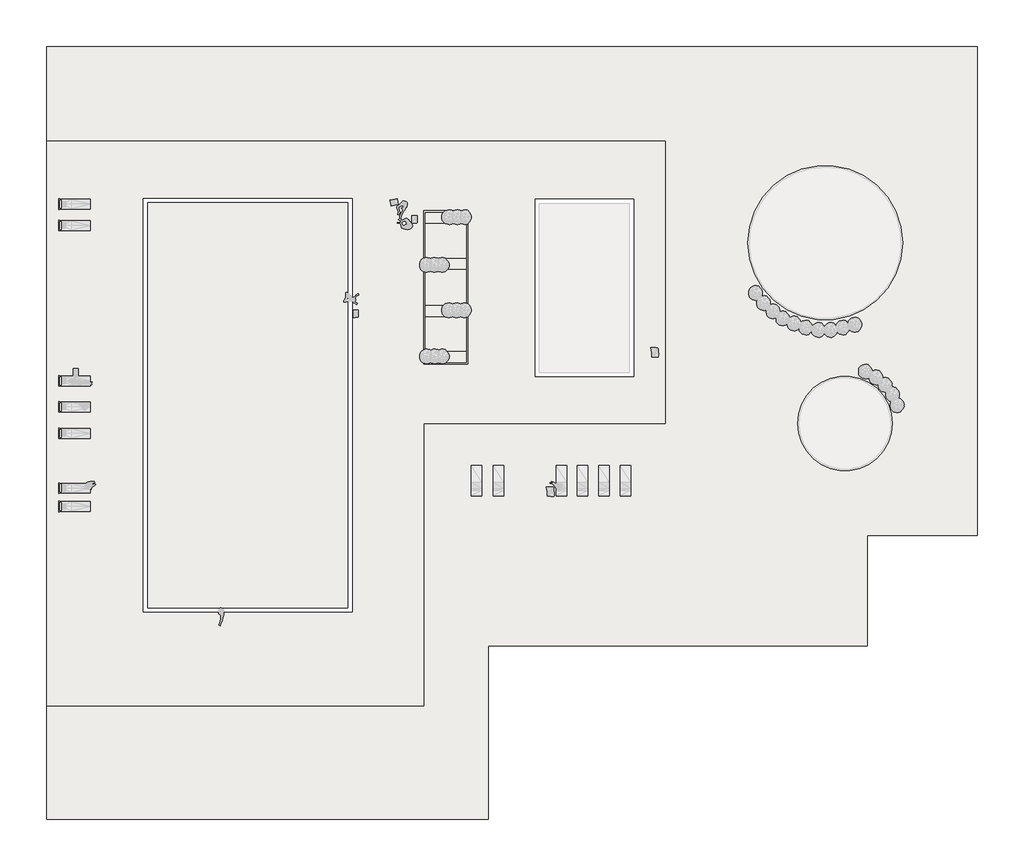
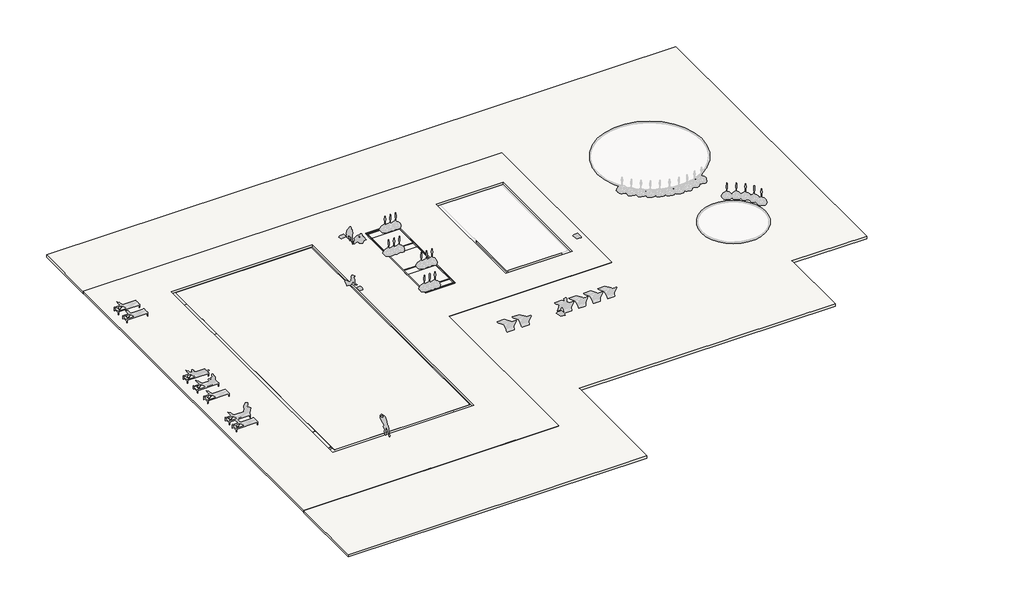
# One storey, part 1 of 2: 16 walls, 13 slabs.
"""IFC4 building model written with IfcOpenShell, lengths in millimetres."""

from ifc_helpers import new_model, si_unit, point, frame, frame_2d, origin, place, context, project, spatial, polyline, circle_curve, trimmed, segment, composite_curve, outline, extrude, faceted_brep, element, save
from ifc_brep_helpers import plane_surface, revolved_surface, advanced_brep

model = new_model("IFC4")

# Units and contexts
model_context = context("Model", 3, world=origin())
ifc_project = project(units=[si_unit("LENGTHUNIT", "METRE", prefix="MILLI")], contexts=[model_context])

# Site, building, storey
site = spatial("IfcSite", under=ifc_project)
building = spatial("IfcBuilding", under=site)
storey = spatial("IfcBuildingStorey", under=building, Name="1_NPlaya", Elevation=0.0)

# Slabs
placement = place(None, origin())
element("IfcSlab", 1, ObjectType="Pieza 244 G1_Patrón Recto_Aqua_Blanco_Anti-Slip", at=placement, inside=storey, context=model_context, shape_type="SweptSolid", body=[
    extrude(outline(polyline([(3250.0411326, 24806.3660731), (3250.0411326, 20036.3926616), (2314.0677212, 20036.3926616), (2314.0677212, 22595.3926616), (2689.0677212, 22595.3926616), (2689.0677212, 22845.3926616), (1689.0677212, 22845.3926616), (1689.0677212, 22595.3926616), (2064.0677212, 22595.3926616), (2064.0677212, 20036.3926616), (-185.9322788, 20036.3926616), (-185.9322788, 22595.3926616), (189.0677212, 22595.3926616), (189.0677212, 22845.3926616), (-319.9322788, 22845.3926616), (-319.9322788, 24806.3660731), (3250.0411326, 24806.3660731)])), frame((0.0, 0.0, -1259.0), z_axis=(0.0, 0.0, 1.0), x_axis=(1.0, 0.0, 0.0)), (0.0, 0.0, 1.0), 9.0),
])
element("IfcSlab", 2, ObjectType="Pieza 244 G1_Patrón Recto_Aqua_Blanco_Anti-Slip", at=placement, inside=storey, context=model_context, shape_type="Brep", body=[
    faceted_brep([(5650.0411326, 20004.3134327, -1260.0462758), (5650.0411326, 4636.3926616, -1759.0047424), (4814.0677212, 4636.3926616, -1759.0047424), (4814.0677212, 17786.3926616, -1332.0566904), (5189.0677212, 17786.3926616, -1332.0566904), (5189.0677212, 18036.3926616, -1323.9398073), (4189.0677212, 18036.3926616, -1323.9398073), (4189.0677212, 17786.3926616, -1332.0566904), (4564.0677212, 17786.3926616, -1332.0566904), (4564.0677212, 4636.3926616, -1759.0047424), (2314.0677212, 4636.3926616, -1759.0047424), (2314.0677212, 20036.3926616, -1259.0047424), (3250.0677212, 20036.3926616, -1259.0047424), (3250.0677212, 20004.3134327, -1260.0462758), (5650.0411326, 20004.3134327, -1251.0415334), (3250.0677212, 20004.3134327, -1251.0415334), (3250.0677212, 20036.3926616, -1250.0), (2314.0677212, 20036.3926616, -1250.0), (2314.0677212, 4636.3926616, -1750.0), (4564.0677212, 4636.3926616, -1750.0), (4564.0677212, 17786.3926616, -1323.0519481), (4189.0677212, 17786.3926616, -1323.0519481), (4189.0677212, 18036.3926616, -1314.9350649), (5189.0677212, 18036.3926616, -1314.9350649), (5189.0677212, 17786.3926616, -1323.0519481), (4814.0677212, 17786.3926616, -1323.0519481), (4814.0677212, 4636.3926616, -1750.0), (5650.0411326, 4636.3926616, -1750.0)], [[[0, 1, 2, 3, 4, 5, 6, 7, 8, 9, 10, 11, 12, 13]], [[14, 15, 16, 17, 18, 19, 20, 21, 22, 23, 24, 25, 26, 27]], [[1, 0, 14, 27]], [[2, 1, 27, 26]], [[0, 13, 15, 14]], [[3, 2, 26, 25]], [[4, 3, 25, 24]], [[5, 4, 24, 23]], [[6, 5, 23, 22]], [[7, 6, 22, 21]], [[8, 7, 21, 20]], [[9, 8, 20, 19]], [[10, 9, 19, 18]], [[11, 10, 18, 17]], [[12, 11, 17, 16]], [[13, 12, 16, 15]]]),
    faceted_brep([(-6289.9056903, 20036.3926616, -1259.0047424), (-5444.9322788, 20036.3926616, -1259.0047424), (-5444.9322788, 4636.3926616, -1759.0047424), (-6289.9056903, 4636.3926616, -1759.0047424), (-6289.9056903, 20036.3926616, -1250.0), (-6289.9056903, 4636.3926616, -1750.0), (-5444.9322788, 4636.3926616, -1750.0), (-5444.9322788, 20036.3926616, -1250.0)], [[[0, 1, 2, 3]], [[4, 5, 6, 7]], [[0, 3, 5, 4]], [[1, 0, 4, 7]], [[2, 1, 7, 6]], [[3, 2, 6, 5]]]),
    faceted_brep([(-5194.9322788, 20036.3926616, -1259.0047424), (-2944.9322788, 20036.3926616, -1259.0047424), (-2944.9322788, 4636.3926616, -1759.0047424), (-5194.9322788, 4636.3926616, -1759.0047424), (-5194.9322788, 20036.3926616, -1250.0), (-5194.9322788, 4636.3926616, -1750.0), (-2944.9322788, 4636.3926616, -1750.0), (-2944.9322788, 20036.3926616, -1250.0)], [[[0, 1, 2, 3]], [[4, 5, 6, 7]], [[1, 0, 4, 7]], [[2, 1, 7, 6]], [[3, 2, 6, 5]], [[0, 3, 5, 4]]]),
    faceted_brep([(-2694.9322788, 20036.3926616, -1259.0047424), (-444.9322788, 20036.3926616, -1259.0047424), (-444.9322788, 4636.3926616, -1759.0047424), (-2694.9322788, 4636.3926616, -1759.0047424), (-2694.9322788, 20036.3926616, -1250.0), (-2694.9322788, 4636.3926616, -1750.0), (-444.9322788, 4636.3926616, -1750.0), (-444.9322788, 20036.3926616, -1250.0)], [[[0, 1, 2, 3]], [[4, 5, 6, 7]], [[1, 0, 4, 7]], [[2, 1, 7, 6]], [[3, 2, 6, 5]], [[0, 3, 5, 4]]]),
    faceted_brep([(-185.9322788, 20036.3926616, -1259.0047424), (2064.0677212, 20036.3926616, -1259.0047424), (2064.0677212, 4636.3926616, -1759.0047424), (-185.9322788, 4636.3926616, -1759.0047424), (-185.9322788, 20036.3926616, -1250.0), (-185.9322788, 4636.3926616, -1750.0), (2064.0677212, 4636.3926616, -1750.0), (2064.0677212, 20036.3926616, -1250.0)], [[[0, 1, 2, 3]], [[4, 5, 6, 7]], [[1, 0, 4, 7]], [[2, 1, 7, 6]], [[3, 2, 6, 5]], [[0, 3, 5, 4]]]),
])
element("IfcSlab", 3, ObjectType="Pieza 244 G1_Patrón Recto_Aqua_Blanco_Anti-Slip", at=placement, inside=storey, context=model_context, shape_type="SweptSolid", body=[
    extrude(outline(polyline([(-5444.9322788, 4636.3926616), (-5444.9322788, 2095.3926616), (-5819.9322788, 2095.3926616), (-5819.9322788, 1845.3926616), (-4819.9322788, 1845.3926616), (-4819.9322788, 2095.3926616), (-5194.9322788, 2095.3926616), (-5194.9322788, 4636.3926616), (-2944.9322788, 4636.3926616), (-2944.9322788, 2095.3926616), (-3319.9322788, 2095.3926616), (-3319.9322788, 1845.3926616), (-2319.9322788, 1845.3926616), (-2319.9322788, 2095.3926616), (-2694.9322788, 2095.3926616), (-2694.9322788, 4636.3926616), (-444.9322788, 4636.3926616), (-444.9322788, 2095.3926616), (-810.9322788, 2095.3926616), (-810.9322788, 1845.3926616), (189.0677212, 1845.3926616), (189.0677212, 2095.3926616), (-185.9322788, 2095.3926616), (-185.9322788, 4636.3926616), (2064.0677212, 4636.3926616), (2064.0677212, 2095.3926616), (1689.0677212, 2095.3926616), (1689.0677212, 1845.3926616), (2689.0677212, 1845.3926616), (2689.0677212, 2095.3926616), (2314.0677212, 2095.3926616), (2314.0677212, 4636.3926616), (4564.0677212, 4636.3926616), (4564.0677212, 2095.3926616), (4189.0677212, 2095.3926616), (4189.0677212, 1845.3926616), (5189.0677212, 1845.3926616), (5189.0677212, 2095.3926616), (4814.0677212, 2095.3926616), (4814.0677212, 4636.3926616), (5650.0411326, 4636.3926616), (5650.0411326, -124.5807498), (-6289.9056903, -124.5807498), (-6289.9056903, 4636.3926616), (-5444.9322788, 4636.3926616)])), frame((0.0, 0.0, -1759.0), z_axis=(0.0, 0.0, 1.0), x_axis=(1.0, 0.0, 0.0)), (0.0, 0.0, 1.0), 9.0),
])
element("IfcSlab", 4, ObjectType="Pieza 244 G1_Patrón Recto_Aqua_Blanco_Anti-Slip", at=placement, inside=storey, context=model_context, shape_type="SweptSolid", body=[
    extrude(outline(composite_curve([segment(polyline([(3849.0677212, 24836.3926616), (3849.0677212, 20676.3926616)]), True, "CONTINUOUS"), segment(trimmed(circle_curve(frame_2d((3889.0677212, 20676.3926616)), 40.0), [point((3849.0677212, 20676.3926616))], [point((3889.0677212, 20636.3926616))], True, "CARTESIAN"), True, "CONTINUOUS"), segment(polyline([(3889.0677212, 20636.3926616), (5680.0677212, 20636.3926616), (5680.0677212, 20076.3926616), (3320.0677212, 20076.3926616), (3320.0677212, 24836.3926616), (3849.0677212, 24836.3926616)]), True, "CONTINUOUS")], self_intersect=False)), frame((0.0, 0.0, -959.0), z_axis=(0.0, 0.0, 1.0), x_axis=(1.0, 0.0, 0.0)), (0.0, 0.0, 1.0), 9.0),
])
element("IfcSlab", 5, ObjectType="Pieza 244 G1_Patrón Recto_Aqua_Blanco_Anti-Slip", at=placement, inside=storey, context=model_context, shape_type="SweptSolid", body=[
    extrude(outline(composite_curve([segment(polyline([(4450.0411326, 24836.3926616), (4450.0411326, 21246.3660731)]), True, "CONTINUOUS"), segment(trimmed(circle_curve(frame_2d((4490.0411326, 21246.3660731)), 40.0), [point((4450.0411326, 21246.3660731))], [point((4490.0411326, 21206.3660731))], True, "CARTESIAN"), True, "CONTINUOUS"), segment(polyline([(4490.0411326, 21206.3660731), (5680.0677212, 21206.3660731), (5680.0677212, 20676.3926616), (4430.0677212, 20676.3926616), (3920.0677212, 20676.3926616), (3920.0677212, 24836.3926616), (4450.0411326, 24836.3926616)]), True, "CONTINUOUS")], self_intersect=False)), frame((0.0, 0.0, -709.0), z_axis=(0.0, 0.0, 1.0), x_axis=(1.0, 0.0, 0.0)), (0.0, 0.0, 1.0), 9.0),
])
element("IfcSlab", 6, ObjectType="Pieza 244 G1_Patrón Recto_Aqua_Blanco_Anti-Slip", at=placement, inside=storey, context=model_context, shape_type="SweptSolid", body=[
    extrude(outline(polyline([(5049.0677212, 24836.3926616), (5049.0677212, 21806.3660731), (5680.0677212, 21806.3660731), (5680.0677212, 21276.3926616), (5021.146334, 21276.3926616), (4520.0677212, 21276.3926616), (4520.0677212, 24836.3926616), (5049.0677212, 24836.3926616)])), frame((0.0, 0.0, -459.0), z_axis=(0.0, 0.0, 1.0), x_axis=(1.0, 0.0, 0.0)), (0.0, 0.0, 1.0), 9.0),
])
element("IfcSlab", 7, ObjectType="Pieza 244 G1_Patrón Recto_Aqua_Blanco_Anti-Slip", at=placement, inside=storey, context=model_context, shape_type="SweptSolid", body=[
    extrude(outline(polyline([(5680.0677212, 24836.3926616), (5680.0677212, 21876.3926616), (5120.0677212, 21876.3926616), (5120.0677212, 24836.3926616), (5680.0677212, 24836.3926616)])), frame((0.0, 0.0, -209.0), z_axis=(0.0, 0.0, 1.0), x_axis=(1.0, 0.0, 0.0)), (0.0, 0.0, 1.0), 9.0),
])
element("IfcSlab", 8, ObjectType="Pieza 244 G1_Patrón Recto_Aqua_Blanco_Anti-Slip", at=placement, inside=storey, context=model_context, shape_type="SweptSolid", body=[
    extrude(outline(polyline([(-6289.9056903, 24806.3660731), (-310.9322788, 24806.3660731), (-310.9322788, 22845.3926616), (-819.9322788, 22845.3926616), (-819.9322788, 22595.3926616), (-444.9322788, 22595.3926616), (-444.9322788, 20036.3926616), (-2694.9322788, 20036.3926616), (-2694.9322788, 22595.3926616), (-2319.9322788, 22595.3926616), (-2319.9322788, 22845.3926616), (-3319.9322788, 22845.3926616), (-3319.9322788, 22595.3926616), (-2944.9322788, 22595.3926616), (-2944.9322788, 20036.3926616), (-5194.9322788, 20036.3926616), (-5194.9322788, 22595.3926616), (-4819.9322788, 22595.3926616), (-4819.9322788, 22845.3926616), (-5819.9322788, 22845.3926616), (-5819.9322788, 22595.3926616), (-5444.9322788, 22595.3926616), (-5444.9322788, 20036.3926616), (-6289.9056903, 20036.3926616), (-6289.9056903, 24806.3660731)])), frame((0.0, 0.0, -1259.0), z_axis=(0.0, 0.0, 1.0), x_axis=(1.0, 0.0, 0.0)), (0.0, 0.0, 1.0), 9.0),
])
element("IfcSlab", 9, ObjectType="Pieza 244 G1_Patrón Recto_Aqua_Plomo_Anti-Slip", at=placement, inside=storey, context=model_context, shape_type="SweptSolid", body=[
    extrude(outline(polyline([(-5194.9322788, 20036.3926616), (-5444.9322788, 20036.3926616), (-5444.9322788, 22595.3926616), (-5194.9322788, 22595.3926616), (-5194.9322788, 20036.3926616)])), frame((0.0, 0.0, -1259.0), z_axis=(0.0, 0.0, 1.0), x_axis=(1.0, 0.0, 0.0)), (0.0, 0.0, 1.0), 9.0),
    extrude(outline(polyline([(-2694.9322788, 20036.3926616), (-2944.9322788, 20036.3926616), (-2944.9322788, 22595.3926616), (-2694.9322788, 22595.3926616), (-2694.9322788, 20036.3926616)])), frame((0.0, 0.0, -1259.0), z_axis=(0.0, 0.0, 1.0), x_axis=(1.0, 0.0, 0.0)), (0.0, 0.0, 1.0), 9.0),
    extrude(outline(polyline([(-185.9322788, 20036.3926616), (-445.9322788, 20036.3926616), (-445.9322788, 22595.3926616), (-185.9322788, 22595.3926616), (-185.9322788, 20036.3926616)])), frame((0.0, 0.0, -1259.0), z_axis=(0.0, 0.0, 1.0), x_axis=(1.0, 0.0, 0.0)), (0.0, 0.0, 1.0), 9.0),
    extrude(outline(polyline([(2314.0677212, 20036.3926616), (2064.0677212, 20036.3926616), (2064.0677212, 22595.3926616), (2314.0677212, 22595.3926616), (2314.0677212, 20036.3926616)])), frame((0.0, 0.0, -1259.0), z_axis=(0.0, 0.0, 1.0), x_axis=(1.0, 0.0, 0.0)), (0.0, 0.0, 1.0), 9.0),
])
element("IfcSlab", 10, ObjectType="GENÉRICO_LOSA NO CUENTA", at=placement, inside=storey, context=model_context, shape_type="SweptSolid", body=[
    extrude(outline(polyline([(26125.6635969, 29089.4519776), (26125.6635969, 11189.4519776), (10825.6635969, 11189.4519776), (10825.6635969, -6710.5480224), (-13074.3364031, -6710.5480224), (-13074.3364031, 29089.4519776), (26125.6635969, 29089.4519776)]), holes=[polyline([(6296.5677212, 25452.8926616), (-6937.0185058, 25452.8926616), (-6937.0185058, -771.6935653), (6296.5677212, -771.6935653), (6296.5677212, 25452.8926616)]), polyline([(24140.7063413, 25402.767289), (17887.4088874, 25402.767289), (17887.4088874, 14156.3448351), (24140.7063413, 14156.3448351), (24140.7063413, 25402.767289)]), polyline([(13625.6635969, 15064.4310621), (13625.6635969, 15746.3810621), (10825.6635969, 15746.3810621), (10825.6635969, 15064.4310621), (13625.6635969, 15064.4310621)]), polyline([(13625.6635969, 17979.3310621), (13625.6635969, 18661.2810621), (10825.6635969, 18661.2810621), (10825.6635969, 17979.3310621), (13625.6635969, 17979.3310621)]), polyline([(13625.6635969, 20967.1810621), (13625.6635969, 21649.1310621), (10825.6635969, 21649.1310621), (10825.6635969, 20967.1810621), (13625.6635969, 20967.1810621)]), polyline([(13625.6635969, 23875.0310621), (13625.6635969, 24556.9810621), (10825.6635969, 24556.9810621), (10825.6635969, 23875.0310621), (13625.6635969, 23875.0310621)])]), frame((0.0, 0.0, -200.0), z_axis=(0.0, 0.0, 1.0), x_axis=(1.0, 0.0, 0.0)), (0.0, 0.0, 1.0), 200.0),
])
element("IfcSlab", 11, ObjectType="GENÉRICO_HIERBA", at=placement, inside=storey, context=model_context, shape_type="SweptSolid", body=[
    extrude(outline(polyline([(-13074.3364031, 29089.4519776), (-13074.3364031, 35089.4519776), (45925.6635969, 35089.4519776), (45925.6635969, 4089.4519776), (38925.6635969, 4089.4519776), (38925.6635969, -2910.5480224), (14925.6635969, -2910.5480224), (14925.6635969, -13910.5480224), (-13074.3364031, -13910.5480224), (-13074.3364031, -6710.5480224), (10825.6635969, -6710.5480224), (10825.6635969, 11189.4519776), (26125.6635969, 11189.4519776), (26125.6635969, 29089.4519776), (-13074.3364031, 29089.4519776)]), holes=[composite_curve([segment(trimmed(circle_curve(frame_2d((36279.7445205, 22642.4685528)), 4900.0), [point((31379.7445205, 22642.4685528))], [point((41179.7445205, 22642.4685528))], True, "CARTESIAN"), True, "CONTINUOUS"), segment(trimmed(circle_curve(frame_2d((36279.7445205, 22642.4685528)), 4900.0), [point((41179.7445205, 22642.4685528))], [point((31379.7445205, 22642.4685528))], True, "CARTESIAN"), True, "CONTINUOUS")], self_intersect=False), composite_curve([segment(trimmed(circle_curve(frame_2d((37526.7800734, 11189.4519776)), 3000.0), [point((34526.7800734, 11189.4519776))], [point((40526.7800734, 11189.4519776))], True, "CARTESIAN"), True, "CONTINUOUS"), segment(trimmed(circle_curve(frame_2d((37526.7800734, 11189.4519776)), 3000.0), [point((40526.7800734, 11189.4519776))], [point((34526.7800734, 11189.4519776))], True, "CARTESIAN"), True, "CONTINUOUS")], self_intersect=False)]), frame((0.0, 0.0, -281.0), z_axis=(0.0, 0.0, 1.0), x_axis=(1.0, 0.0, 0.0)), (0.0, 0.0, 1.0), 231.0),
    extrude(outline(polyline([(10925.6635969, 23875.0310621), (10925.6635969, 24556.9810621), (13525.6635969, 24556.9810621), (13525.6635969, 23875.0310621), (10925.6635969, 23875.0310621)])), frame((0.0, 0.0, -281.0), z_axis=(0.0, 0.0, 1.0), x_axis=(1.0, 0.0, 0.0)), (0.0, 0.0, 1.0), 231.0),
    extrude(outline(polyline([(10925.6635969, 20967.1810621), (10925.6635969, 21649.1310621), (13525.6635969, 21649.1310621), (13525.6635969, 20967.1810621), (10925.6635969, 20967.1810621)])), frame((0.0, 0.0, -281.0), z_axis=(0.0, 0.0, 1.0), x_axis=(1.0, 0.0, 0.0)), (0.0, 0.0, 1.0), 231.0),
    extrude(outline(polyline([(10925.6635969, 17979.3310621), (10925.6635969, 18661.2810621), (13525.6635969, 18661.2810621), (13525.6635969, 17979.3310621), (10925.6635969, 17979.3310621)])), frame((0.0, 0.0, -281.0), z_axis=(0.0, 0.0, 1.0), x_axis=(1.0, 0.0, 0.0)), (0.0, 0.0, 1.0), 231.0),
    extrude(outline(polyline([(10925.6635969, 15064.4310621), (10925.6635969, 15746.3810621), (13525.6635969, 15746.3810621), (13525.6635969, 15064.4310621), (10925.6635969, 15064.4310621)])), frame((0.0, 0.0, -281.0), z_axis=(0.0, 0.0, 1.0), x_axis=(1.0, 0.0, 0.0)), (0.0, 0.0, 1.0), 231.0),
])
element("IfcSlab", 12, ObjectType="GENÉRICO_AGUA", at=placement, inside=storey, context=model_context, shape_type="SweptSolid", body=[
    extrude(outline(polyline([(6031.4924614, 25177.1049078), (6031.4924614, -516.0320786), (-6669.644525, -516.0320786), (-6669.644525, 25177.1049078), (6031.4924614, 25177.1049078)])), frame((0.0, 0.0, -16.0), z_axis=(0.0, 0.0, 1.0), x_axis=(1.0, 0.0, 0.0)), (0.0, 0.0, 1.0), 1.0),
])
element("IfcSlab", 13, ObjectType="GENÉRICO_LOSA 20 cm", at=placement, inside=storey, context=model_context, shape_type="SweptSolid", body=[
    extrude(outline(polyline([(13625.6635969, 24670.8506065), (13625.6635969, 14964.4310621), (10825.6635969, 14964.4310621), (10825.6635969, 24670.8506065), (13625.6635969, 24670.8506065)]), holes=[polyline([(13525.6635969, 15064.4310621), (13525.6635969, 24570.8506065), (10925.6635969, 24570.8506065), (10925.6635969, 15064.4310621), (13525.6635969, 15064.4310621)])]), frame((0.0, 0.0, -150.0), z_axis=(0.0, 0.0, 1.0), x_axis=(1.0, 0.0, 0.0)), (0.0, 0.0, 1.0), 200.0),
])

# Walls
element("IfcWall", 14, ObjectType="Pieza 244 G1_Patrón Recto_Aqua_Blanco_Liso", at=placement, inside=storey, context=model_context, shape_type="Brep", body=[
    faceted_brep([(5680.0677212, 20045.3926616, -1250.0), (3320.0677212, 20045.3926616, -1250.0), (3320.0677212, 20045.3926616, -990.0), (5680.0677212, 20045.3926616, -990.0), (5680.0677212, 20045.3926616, -1219.6653817), (5680.0677212, 20036.3926616, -1250.0), (5680.0677212, 20036.3926616, -990.0), (3320.0677212, 20036.3926616, -990.0), (3320.0677212, 20036.3926616, -1250.0)], [[[0, 1, 2, 3, 4]], [[5, 6, 7, 8]], [[1, 0, 5, 8]], [[2, 1, 8, 7]], [[3, 2, 7, 6]], [[0, 4, 3, 6, 5]]]),
])
element("IfcWall", 15, ObjectType="Pieza 244 G1_Patrón Recto_Aqua_Blanco_Liso", at=placement, inside=storey, context=model_context, shape_type="SweptSolid", body=[
    extrude(outline(polyline([(3289.0677212, 24836.3926616), (3289.0677212, 20076.3926616), (3280.0677212, 20076.3926616), (3280.0677212, 24836.3926616), (3289.0677212, 24836.3926616)])), frame((0.0, 0.0, -1250.0), z_axis=(0.0, 0.0, 1.0), x_axis=(1.0, 0.0, 0.0)), (0.0, 0.0, 1.0), 260.0),
])
element("IfcWall", 16, ObjectType="Pieza 244 G1_Patrón Recto_Aqua_Blanco_Liso", at=placement, inside=storey, context=model_context, shape_type="SweptSolid", body=[
    extrude(outline(polyline([(5120.1927212, 21845.3926616), (5680.0677212, 21845.3926616), (5680.0677212, 21836.3926616), (5120.1927212, 21836.3926616), (5120.1927212, 21845.3926616)])), frame((0.0, 0.0, -450.0), z_axis=(0.0, 0.0, 1.0), x_axis=(1.0, 0.0, 0.0)), (0.0, 0.0, 1.0), 210.0),
])
element("IfcWall", 17, ObjectType="Pieza 244 G1_Patrón Recto_Aqua_Blanco_Liso", at=placement, inside=storey, context=model_context, shape_type="SweptSolid", body=[
    extrude(outline(polyline([(5089.0677212, 24836.3926616), (5089.0677212, 21876.290177), (5080.0677212, 21876.290177), (5080.0677212, 24836.3926616), (5089.0677212, 24836.3926616)])), frame((0.0, 0.0, -450.0), z_axis=(0.0, 0.0, 1.0), x_axis=(1.0, 0.0, 0.0)), (0.0, 0.0, 1.0), 210.0),
])
element("IfcWall", 18, ObjectType="Pieza 244 G1_Patrón Recto_Aqua_Blanco_Liso", at=placement, inside=storey, context=model_context, shape_type="SweptSolid", body=[
    extrude(outline(polyline([(4489.0677212, 24836.3926616), (4489.0677212, 21275.5274858), (4480.0677212, 21275.5274858), (4480.0677212, 24836.3926616), (4489.0677212, 24836.3926616)])), frame((0.0, 0.0, -700.0), z_axis=(0.0, 0.0, 1.0), x_axis=(1.0, 0.0, 0.0)), (0.0, 0.0, 1.0), 210.0),
])
element("IfcWall", 19, ObjectType="Pieza 244 G1_Patrón Recto_Aqua_Blanco_Liso", at=placement, inside=storey, context=model_context, shape_type="SweptSolid", body=[
    extrude(outline(polyline([(4520.0677212, 21245.3926616), (5684.5677212, 21245.3926616), (5684.5677212, 21236.3926616), (4520.0677212, 21236.3926616), (4520.0677212, 21245.3926616)])), frame((0.0, 0.0, -700.0), z_axis=(0.0, 0.0, 1.0), x_axis=(1.0, 0.0, 0.0)), (0.0, 0.0, 1.0), 210.0),
])
element("IfcWall", 20, ObjectType="Pieza 244 G1_Patrón Recto_Aqua_Blanco_Liso", at=placement, inside=storey, context=model_context, shape_type="SweptSolid", body=[
    extrude(outline(polyline([(3921.2009319, 20645.3926616), (5680.0677212, 20645.3926616), (5680.0677212, 20636.3926616), (3921.2009319, 20636.3926616), (3921.2009319, 20645.3926616)])), frame((0.0, 0.0, -950.0), z_axis=(0.0, 0.0, 1.0), x_axis=(1.0, 0.0, 0.0)), (0.0, 0.0, 1.0), 210.0),
])
element("IfcWall", 21, ObjectType="Pieza 244 G1_Patrón Recto_Aqua_Blanco_Liso", at=placement, inside=storey, context=model_context, shape_type="SweptSolid", body=[
    extrude(outline(polyline([(3889.0677212, 24836.3926616), (3889.0677212, 20676.3926616), (3880.0677212, 20676.3926616), (3880.0677212, 24836.3926616), (3889.0677212, 24836.3926616)])), frame((0.0, 0.0, -950.0), z_axis=(0.0, 0.0, 1.0), x_axis=(1.0, 0.0, 0.0)), (0.0, 0.0, 1.0), 210.0),
])
element("IfcWall", 22, ObjectType="Pieza 244 G1_Patrón Recto_Aqua_Blanco_Liso", at=placement, inside=storey, context=model_context, shape_type="SweptSolid", body=[
    extrude(outline(polyline([(18513.8701143, 21182.4310621), (19723.8701143, 21182.4310621), (19723.8701143, 21173.4310621), (18513.8701143, 21173.4310621), (18513.8701143, 21182.4310621)])), frame((0.0, 0.0, -450.0), z_axis=(0.0, 0.0, 1.0), x_axis=(1.0, 0.0, 0.0)), (0.0, 0.0, 1.0), 185.0),
])
element("IfcWall", 23, ObjectType="Pieza 244 G1_Patrón Recto_Aqua_Blanco_Liso", at=placement, inside=storey, context=model_context, shape_type="SweptSolid", body=[
    extrude(outline(polyline([(19754.8701143, 21213.4310621), (19754.8701143, 24773.4310621), (19763.8701143, 24773.4310621), (19763.8701143, 21213.4310621), (19754.8701143, 21213.4310621)])), frame((0.0, 0.0, -450.0), z_axis=(0.0, 0.0, 1.0), x_axis=(1.0, 0.0, 0.0)), (0.0, 0.0, 1.0), 185.0),
])
element("IfcWall", 24, ObjectType="Pieza 244 G1_Patrón Recto_Aqua_Blanco_Liso", at=placement, inside=storey, context=model_context, shape_type="SweptSolid", body=[
    extrude(outline(polyline([(18513.8701143, 19982.4310621), (20973.8701143, 19982.4310621), (20973.8701143, 19973.4310621), (18513.8701143, 19973.4310621), (18513.8701143, 19982.4310621)])), frame((0.0, 0.0, -700.0), z_axis=(0.0, 0.0, 1.0), x_axis=(1.0, 0.0, 0.0)), (0.0, 0.0, 1.0), 210.0),
])
element("IfcWall", 25, ObjectType="Pieza 244 G1_Patrón Recto_Aqua_Blanco_Liso", at=placement, inside=storey, context=model_context, shape_type="SweptSolid", body=[
    extrude(outline(polyline([(21004.8701143, 20013.4310621), (21004.8701143, 24773.4310621), (21013.8701143, 24773.4310621), (21013.8701143, 20013.4310621), (21004.8701143, 20013.4310621)])), frame((0.0, 0.0, -700.0), z_axis=(0.0, 0.0, 1.0), x_axis=(1.0, 0.0, 0.0)), (0.0, 0.0, 1.0), 210.0),
])
element("IfcWall", 26, ObjectType="Pieza 244 G1_Patrón Recto_Aqua_Blanco_Liso", at=placement, inside=storey, context=model_context, shape_type="AdvancedBrep", body=[
    advanced_brep(
    [(23522.8701143, 24782.4310621, -669.9734114), (21013.8701143, 24782.4310621, -669.9734114), (21013.8701143, 24782.4310621, -490.0), (20973.8701143, 24782.4310621, -450.0), (19763.8701143, 24782.4310621, -450.0), (19763.8701143, 24782.4310621, -265.0), (19723.8701143, 24782.4310621, -225.0), (18504.8701143, 24782.4310621, -225.0), (18504.8701143, 24782.4310621, -70.0), (23522.8701143, 24782.4310621, -70.0), (23522.8701143, 24773.4310621, -669.9734114), (23522.8701143, 24773.4310621, -70.0), (23513.8701143, 24773.4310621, -70.0), (18513.8701143, 24773.4310621, -70.0), (18504.8701143, 24773.4310621, -70.0), (18504.8701143, 24773.4310621, -225.0), (18513.8701143, 24773.4310621, -225.0), (19723.8701143, 24773.4310621, -225.0), (19763.8701143, 24773.4310621, -265.0), (19763.8701143, 24773.4310621, -450.0), (20973.8701143, 24773.4310621, -450.0), (21013.8701143, 24773.4310621, -490.0), (21013.8701143, 24773.4310621, -669.9734114), (23513.8701143, 24773.4310621, -669.9734114)],
    [
        (0, 1),
        (1, 2),
        (2, 3, circle_curve(frame((20973.8701143, 24782.4310621, -490.0), z_axis=(0.0, -1.0, 0.0), x_axis=(1.0, 0.0, 0.0)), 40.0)),
        (3, 4),
        (4, 5),
        (5, 6, circle_curve(frame((19723.8701143, 24782.4310621, -265.0), z_axis=(0.0, -1.0, 0.0), x_axis=(1.0, 0.0, 0.0)), 40.0)),
        (6, 7),
        (7, 8),
        (8, 9),
        (9, 0),
        (10, 11),
        (11, 12),
        (12, 13),
        (13, 14),
        (14, 15),
        (15, 16),
        (16, 17),
        (17, 18, circle_curve(frame((19723.8701143, 24773.4310621, -265.0), z_axis=(0.0, 1.0, 0.0), x_axis=(1.0, 0.0, 0.0)), 40.0)),
        (18, 19),
        (19, 20),
        (20, 21, circle_curve(frame((20973.8701143, 24773.4310621, -490.0), z_axis=(0.0, 1.0, 0.0), x_axis=(1.0, 0.0, 0.0)), 40.0)),
        (21, 22),
        (22, 23),
        (23, 10),
        (9, 11),
        (10, 0),
        (7, 15),
        (14, 8),
        (22, 1),
        (21, 2),
        (20, 3),
        (19, 4),
        (18, 5),
        (17, 6),
    ],
    [
        plane_surface(frame((23513.8701143, 24782.4310621, -669.9734114), z_axis=(0.0, 1.0, 0.0), x_axis=(-1.0, 0.0, 0.0))),
        plane_surface(frame((23513.8701143, 24773.4310621, -669.9734114), z_axis=(0.0, -1.0, 0.0), x_axis=(1.0, 0.0, 0.0))),
        plane_surface(frame((23522.8701143, 14773.4310621, -669.9734114), z_axis=(1.0, 0.0, 0.0), x_axis=(0.0, 1.0, 0.0))),
        plane_surface(frame((18504.8701143, 24773.4310621, -225.0), z_axis=(-1.0, 0.0, 0.0), x_axis=(0.0, -1.0, 0.0))),
        plane_surface(frame((23518.3701143, 24782.4310621, -669.9734114), z_axis=(0.0, 0.0, -1.0), x_axis=(0.0, -1.0, 0.0))),
        plane_surface(frame((18509.3701143, 24782.4310621, -70.0), z_axis=(0.0, 0.0, 1.0), x_axis=(0.0, -1.0, 0.0))),
        plane_surface(frame((21013.8701143, 24782.4310621, -669.9734114), z_axis=(-1.0, 0.0, 0.0), x_axis=(0.0, -1.0, 0.0))),
        revolved_surface(polyline([(21013.8701143, 24773.4310621, -490.0), (21013.8701143, 24782.4310621, -490.0)]), (20973.8701143, 24773.4310621, -490.0), (0.0, -1.0, 0.0)),
        plane_surface(frame((20973.8701143, 24782.4310621, -450.0), z_axis=(0.0, 0.0, -1.0), x_axis=(0.0, -1.0, 0.0))),
        plane_surface(frame((19763.8701143, 24782.4310621, -450.0), z_axis=(-1.0, 0.0, 0.0), x_axis=(0.0, -1.0, 0.0))),
        revolved_surface(polyline([(19763.8701143, 24773.4310621, -265.0), (19763.8701143, 24782.4310621, -265.0)]), (19723.8701143, 24773.4310621, -265.0), (0.0, -1.0, 0.0)),
        plane_surface(frame((19723.8701143, 24782.4310621, -225.0), z_axis=(0.0, 0.0, -1.0), x_axis=(0.0, -1.0, 0.0))),
    ],
    [
        (0, [[1, 2, 3, 4, 5, 6, 7, 8, 9, 10]]),
        (1, [[11, 12, 13, 14, 15, 16, 17, 18, 19, 20, 21, 22, 23, 24]]),
        (2, [[-10, 25, -11, 26]]),
        (3, [[-8, 27, -15, 28]]),
        (4, [[-1, -26, -24, -23, 29]]),
        (5, [[-9, -28, -14, -13, -12, -25]]),
        (6, [[-2, -29, -22, 30]]),
        (7, [[-3, -30, -21, 31]]),
        (8, [[-4, -31, -20, 32]]),
        (9, [[-5, -32, -19, 33]]),
        (10, [[-6, -33, -18, 34]]),
        (11, [[-7, -34, -17, -16, -27]]),
    ],
),
])
element("IfcWall", 27, ObjectType="Pieza 244 G1_Patrón Recto_Aqua_Blanco_Liso", at=placement, inside=storey, context=model_context, shape_type="Brep", body=[
    faceted_brep([(23522.8701143, 14764.4310621, -669.9734114), (23522.8701143, 24773.4310621, -669.9734114), (23522.8701143, 24773.4310621, -70.0), (23522.8701143, 14764.4310621, -70.0), (23513.8701143, 14764.4310621, -669.9734114), (23513.8701143, 14764.4310621, -70.0), (23513.8701143, 14773.4310621, -70.0), (23513.8701143, 24773.4310621, -70.0), (23513.8701143, 24773.4310621, -669.9734114), (23513.8701143, 14773.4310621, -669.9734114)], [[[0, 1, 2, 3]], [[4, 5, 6, 7, 8, 9]], [[2, 1, 8, 7]], [[0, 3, 5, 4]], [[1, 0, 4, 9, 8]], [[3, 2, 7, 6, 5]]]),
])
element("IfcWall", 28, ObjectType="Pieza 244 G1_Patrón Recto_Aqua_Blanco_Liso", at=placement, inside=storey, context=model_context, shape_type="Brep", body=[
    faceted_brep([(18504.8701143, 14764.4310621, -669.9734114), (23513.8701143, 14764.4310621, -669.9734114), (23513.8701143, 14764.4310621, -70.0), (18504.8701143, 14764.4310621, -70.0), (18504.8701143, 14773.4310621, -669.9734114), (18504.8701143, 14773.4310621, -70.0), (18513.8701143, 14773.4310621, -70.0), (23513.8701143, 14773.4310621, -70.0), (23513.8701143, 14773.4310621, -669.9734114), (18513.8701143, 14773.4310621, -669.9734114)], [[[0, 1, 2, 3]], [[4, 5, 6, 7, 8, 9]], [[2, 1, 8, 7]], [[0, 3, 5, 4]], [[1, 0, 4, 9, 8]], [[3, 2, 7, 6, 5]]]),
])
element("IfcWall", 29, ObjectType="Pieza 244 G1_Patrón Recto_Aqua_Blanco_Liso", at=placement, inside=storey, context=model_context, shape_type="SweptSolid", body=[
    extrude(outline(composite_curve([segment(polyline([(24773.4310621, -225.0), (21213.4310621, -225.0)]), True, "CONTINUOUS"), segment(trimmed(circle_curve(frame_2d((21213.4310621, -265.0)), 40.0), [point((21213.4310621, -225.0))], [point((21173.4310621, -265.0))], True, "CARTESIAN"), True, "CONTINUOUS"), segment(polyline([(21173.4310621, -265.0), (21173.4310621, -450.0), (20013.4310621, -450.0)]), True, "CONTINUOUS"), segment(trimmed(circle_curve(frame_2d((20013.4310621, -490.0)), 40.0), [point((20013.4310621, -450.0))], [point((19973.4310621, -490.0))], True, "CARTESIAN"), True, "CONTINUOUS"), segment(polyline([(19973.4310621, -490.0), (19973.4310621, -669.9734114), (14773.4310621, -669.9734114), (14773.4310621, -70.0), (24773.4310621, -70.0), (24773.4310621, -225.0)]), True, "CONTINUOUS")], self_intersect=False)), frame((18504.8701143, 0.0, 0.0), z_axis=(1.0, 0.0, 0.0), x_axis=(0.0, 1.0, 0.0)), (0.0, 0.0, 1.0), 9.0),
])

save(model, "model.ifc")
